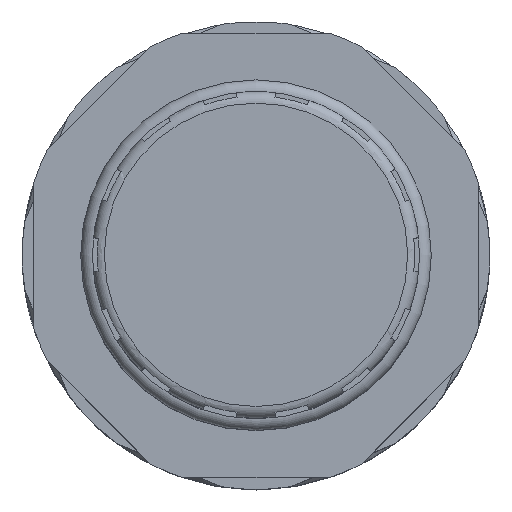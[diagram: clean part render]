
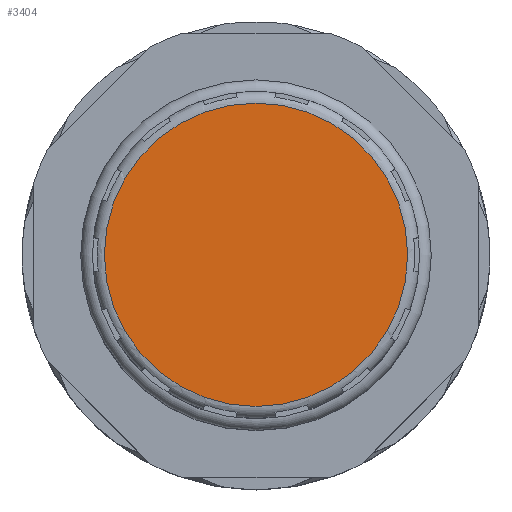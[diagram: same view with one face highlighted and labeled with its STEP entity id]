
A CAD part, top view. The second image highlights one B-rep face of the part: STEP entity #3404.
In plain terms, the highlighted planar face has unit normal (0, 0, 1).
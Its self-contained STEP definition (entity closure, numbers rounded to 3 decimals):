
#807=ORIENTED_EDGE('',*,*,#1370,.T.);
#1370=EDGE_CURVE('',#1663,#1663,#1844,.F.);
#1663=VERTEX_POINT('',#5013);
#1844=CIRCLE('',#3616,12.973);
#2018=EDGE_LOOP('',(#807));
#2180=FACE_BOUND('',#2018,.T.);
#2306=PLANE('',#3615);
#3404=ADVANCED_FACE('',(#2180),#2306,.F.);
#3615=AXIS2_PLACEMENT_3D('',#5011,#4149,#4150);
#3616=AXIS2_PLACEMENT_3D('',#5012,#4151,#4152);
#4149=DIRECTION('',(0.,0.,-1.));
#4150=DIRECTION('',(-1.,0.,0.));
#4151=DIRECTION('',(0.,0.,-1.));
#4152=DIRECTION('',(-1.,0.,0.));
#5011=CARTESIAN_POINT('',(0.,0.,70.3));
#5012=CARTESIAN_POINT('',(0.,0.,70.3));
#5013=CARTESIAN_POINT('',(-12.973,0.,70.3));
